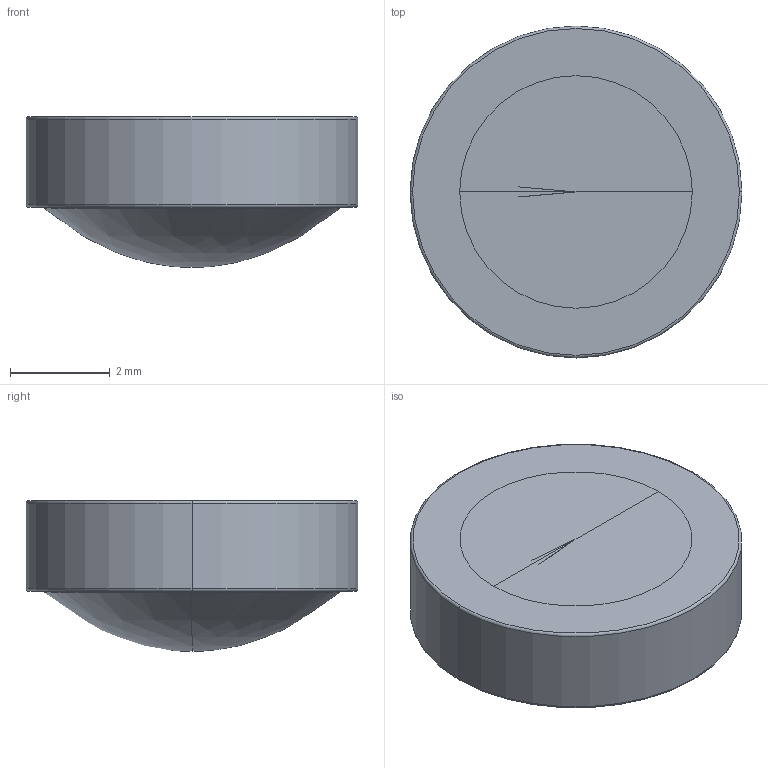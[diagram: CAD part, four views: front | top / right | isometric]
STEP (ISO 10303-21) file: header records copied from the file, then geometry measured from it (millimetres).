
FILE_DESCRIPTION((''),'2;1');
FILE_NAME('354525','2025-07-26T15:59:54',('admin'),('LIGHTPATH'),'CREO PARAMETRIC BY PTC INC, 2024063','CREO PARAMETRIC BY PTC INC, 2024063','');
FILE_SCHEMA(('CONFIG_CONTROL_DESIGN'));
Length unit declared in the file: millimetre
Products named in the file (1): 354525
Bounding box: 6.65 x 6.65 x 3.02 mm (x, y, z)
Volume: 80.4 mm3; surface area: 110.9 mm2
Topology: 1 solids, 1 shells, 14 faces, 30 edges, 16 vertices
Faces by surface type: torus 6, revolution 4, plane 2, cylinder 2
Entity records: 427 total; most frequent: CARTESIAN_POINT 91, DIRECTION 68, ORIENTED_EDGE 52, AXIS2_PLACEMENT_3D 30, EDGE_CURVE 26, CIRCLE 20, VERTEX_POINT 16, EDGE_LOOP 16
